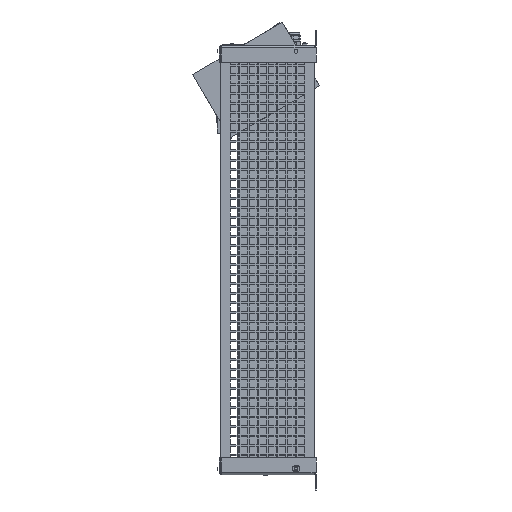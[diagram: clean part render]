
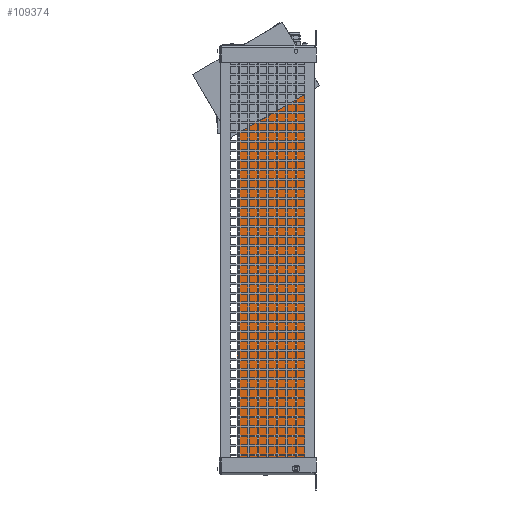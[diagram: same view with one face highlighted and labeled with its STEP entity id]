
A CAD part, left-side view. The second image highlights one B-rep face of the part: STEP entity #109374.
In plain terms, the highlighted planar face has unit normal (-1, 0, 0).
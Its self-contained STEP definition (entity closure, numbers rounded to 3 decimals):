
#7840=FACE_OUTER_BOUND('',#14797,.T.);
#14797=EDGE_LOOP('',(#94736,#94737,#94738,#94739,#94740,#94741));
#16537=LINE('',#142968,#30270);
#16587=LINE('',#143068,#30320);
#19739=LINE('',#150113,#33472);
#28569=LINE('',#168310,#42302);
#28574=LINE('',#168319,#42307);
#28576=LINE('',#168322,#42309);
#30270=VECTOR('',#116856,10.);
#30320=VECTOR('',#116920,10.);
#33472=VECTOR('',#121114,10.);
#42302=VECTOR('',#139182,10.);
#42307=VECTOR('',#139189,10.);
#42309=VECTOR('',#139193,10.);
#43967=VERTEX_POINT('',#142965);
#43968=VERTEX_POINT('',#142967);
#44011=VERTEX_POINT('',#143067);
#47197=VERTEX_POINT('',#150112);
#51759=VERTEX_POINT('',#168309);
#51762=VERTEX_POINT('',#168317);
#53535=EDGE_CURVE('',#43967,#43968,#16537,.T.);
#53585=EDGE_CURVE('',#43968,#44011,#16587,.T.);
#57037=EDGE_CURVE('',#44011,#47197,#19739,.T.);
#66095=EDGE_CURVE('',#47197,#51759,#28569,.T.);
#66100=EDGE_CURVE('',#51762,#43967,#28574,.T.);
#66102=EDGE_CURVE('',#51762,#51759,#28576,.T.);
#94736=ORIENTED_EDGE('',*,*,#66102,.T.);
#94737=ORIENTED_EDGE('',*,*,#66095,.F.);
#94738=ORIENTED_EDGE('',*,*,#57037,.F.);
#94739=ORIENTED_EDGE('',*,*,#53585,.F.);
#94740=ORIENTED_EDGE('',*,*,#53535,.F.);
#94741=ORIENTED_EDGE('',*,*,#66100,.F.);
#99624=PLANE('',#114856);
#109374=ADVANCED_FACE('',(#7840),#99624,.F.);
#114856=AXIS2_PLACEMENT_3D('',#168324,#139196,#139197);
#116856=DIRECTION('',(0.,0.,-1.));
#116920=DIRECTION('',(0.,1.,0.));
#121114=DIRECTION('',(0.,1.,0.));
#139182=DIRECTION('',(0.,1.,0.));
#139189=DIRECTION('',(0.,-1.,0.));
#139193=DIRECTION('',(0.,0.,-1.));
#139196=DIRECTION('center_axis',(1.,0.,0.));
#139197=DIRECTION('ref_axis',(0.,0.,
1.));
#142965=CARTESIAN_POINT('',(-60.16,-31.992,203.826));
#142967=CARTESIAN_POINT('',(-60.16,-31.992,-303.174));
#142968=CARTESIAN_POINT('',(-60.16,-31.992,-49.674));
#143067=CARTESIAN_POINT('',(-60.16,9.158,-303.174));
#143068=CARTESIAN_POINT('',(-60.16,13.046,-303.174));
#150112=CARTESIAN_POINT('',(-60.16,34.158,-303.174));
#150113=CARTESIAN_POINT('',(-60.16,13.046,-303.174));
#168309=CARTESIAN_POINT('',(-60.16,58.084,-303.174));
#168310=CARTESIAN_POINT('',(-60.16,13.046,-303.174));
#168317=CARTESIAN_POINT('',(-60.16,58.084,203.826));
#168319=CARTESIAN_POINT('',(-60.16,13.046,203.826));
#168322=CARTESIAN_POINT('',(-60.16,58.084,-49.674));
#168324=CARTESIAN_POINT('Origin',(-60.16,13.046,-49.674));
